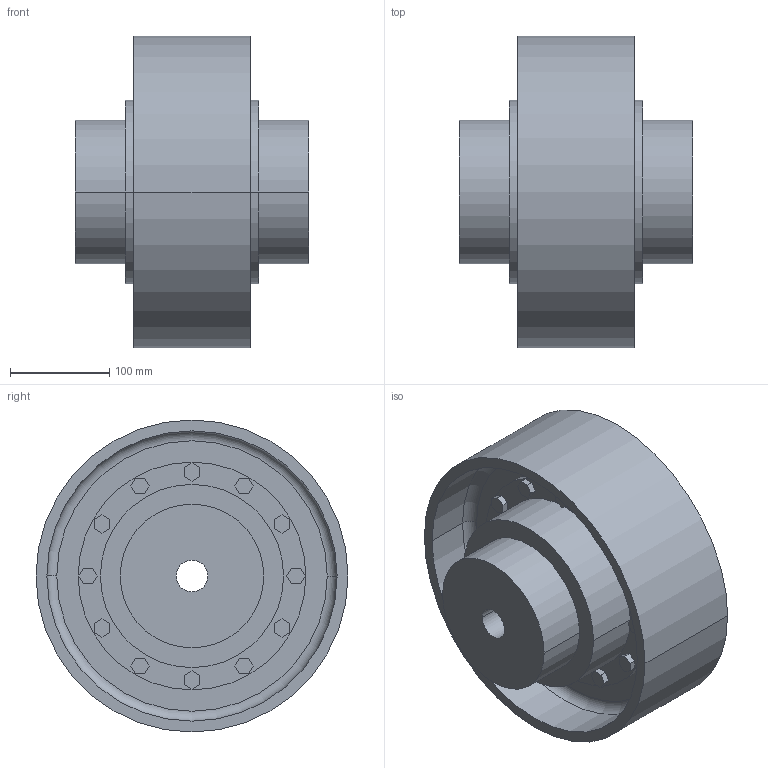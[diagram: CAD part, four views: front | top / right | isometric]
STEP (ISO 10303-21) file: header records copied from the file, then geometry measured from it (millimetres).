
FILE_DESCRIPTION((''),'2;1');
FILE_NAME('A19109400-0_ASM','2018-11-12T',('AB_Roschiwal'),('RENK AG'),'PRO/ENGINEER BY PARAMETRIC TECHNOLOGY CORPORATION, 2015440','PRO/ENGINEER BY PARAMETRIC TECHNOLOGY CORPORATION, 2015440','');
FILE_SCHEMA(('CONFIG_CONTROL_DESIGN'));
Length unit declared in the file: millimetre
Products named in the file (4): LBKD90_GEHAEUSE; LBKD90_NABE; LBKD90_BREMSSCHEIBE; A19109400-0_ASM
Assembly tree (4 placements, depth 2):
  A19109400-0_ASM
    LBKD90_GEHAEUSE
    LBKD90_NABE  x2
    LBKD90_BREMSSCHEIBE
Bounding box: 236 x 315 x 315 mm (x, y, z)
Volume: 6682253.4 mm3; surface area: 786084.8 mm2
Topology: 4 solids, 4 shells, 292 faces, 704 edges, 468 vertices
Faces by surface type: plane 200, cylinder 88, torus 4
Entity records: 8356 total; most frequent: DIRECTION 1424, CARTESIAN_POINT 1420, ORIENTED_EDGE 1360, EDGE_CURVE 680, VECTOR 512, LINE 512, AXIS2_PLACEMENT_3D 456, VERTEX_POINT 452
